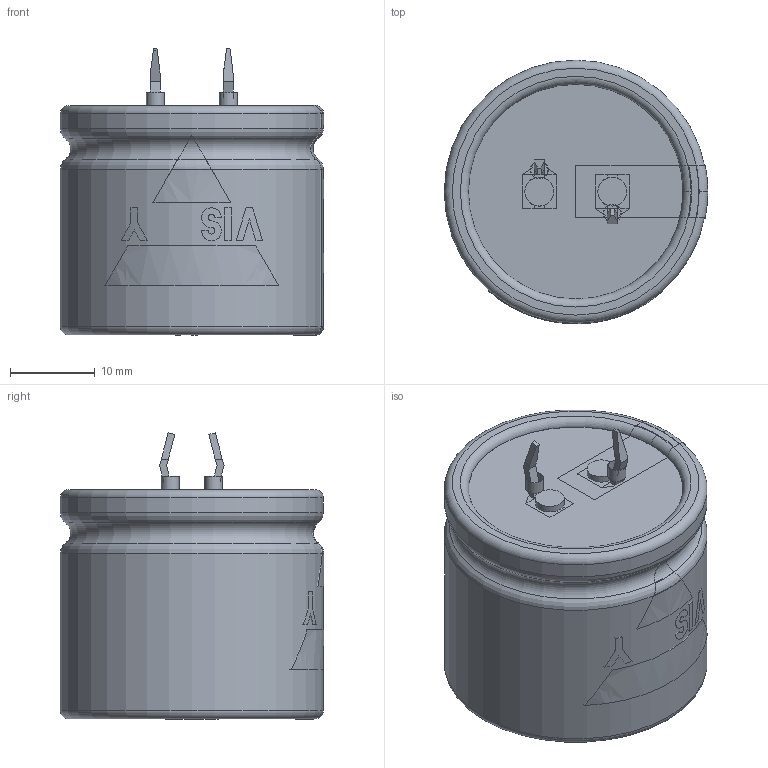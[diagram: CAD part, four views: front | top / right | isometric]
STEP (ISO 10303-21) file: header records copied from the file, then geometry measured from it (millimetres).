
FILE_DESCRIPTION(('FreeCAD Model'),'2;1');
FILE_NAME( 'C:/Users/Gebruiker/Documents/FreeCAD/SnapIn_30x25_2pin_5.8.step', '2020-11-12T20:17:39',('Author'),(''), 'Open CASCADE STEP processor 6.8','FreeCAD','Unknown');
FILE_SCHEMA(('AUTOMOTIVE_DESIGN_CC2 { 1 2 10303 214 -1 1 5 4 }'));
Length unit declared in the file: millimetre
Products named in the file (9): ASSEMBLY; TerminalMin; TerminalPlus; PCBHoles; Disc; BottomInsulation; Can3D; InkMinusBar; InkLogo
Assembly tree (8 placements, depth 2):
  ASSEMBLY
    TerminalMin
    TerminalPlus
    PCBHoles
    Disc
    BottomInsulation
    Can3D
    InkMinusBar
    InkLogo
Bounding box: 31.05 x 31.05 x 33.75 mm (x, y, z)
Volume: 23472.6 mm3; surface area: 10714.2 mm2
Topology: 15 solids, 15 shells, 178 faces, 431 edges, 282 vertices
Faces by surface type: plane 128, cylinder 29, torus 21
Full cylindrical faces by diameter (mm): 2 x2, 2.1 x2, 3.4 x2, 24.8 x2, 25.3 x1, 31 x2
Entity records: 20313 total; most frequent: CARTESIAN_POINT 10694, DIRECTION 1474, ORIENTED_EDGE 862, PCURVE 862, DEFINITIONAL_REPRESENTATION 862, LINE 817, VECTOR 817, EDGE_CURVE 431
